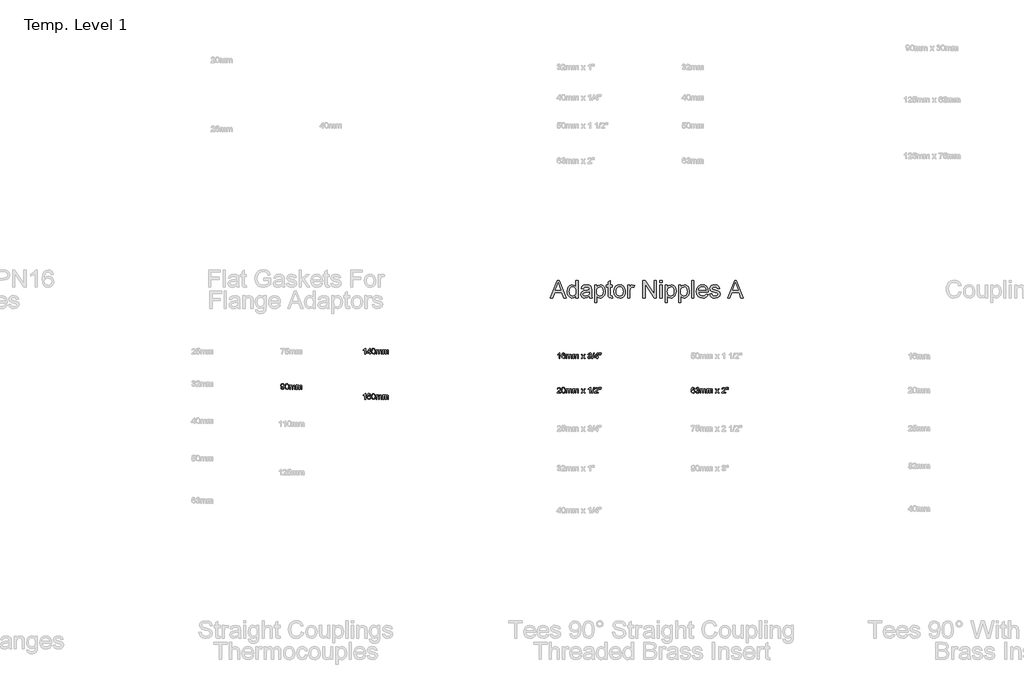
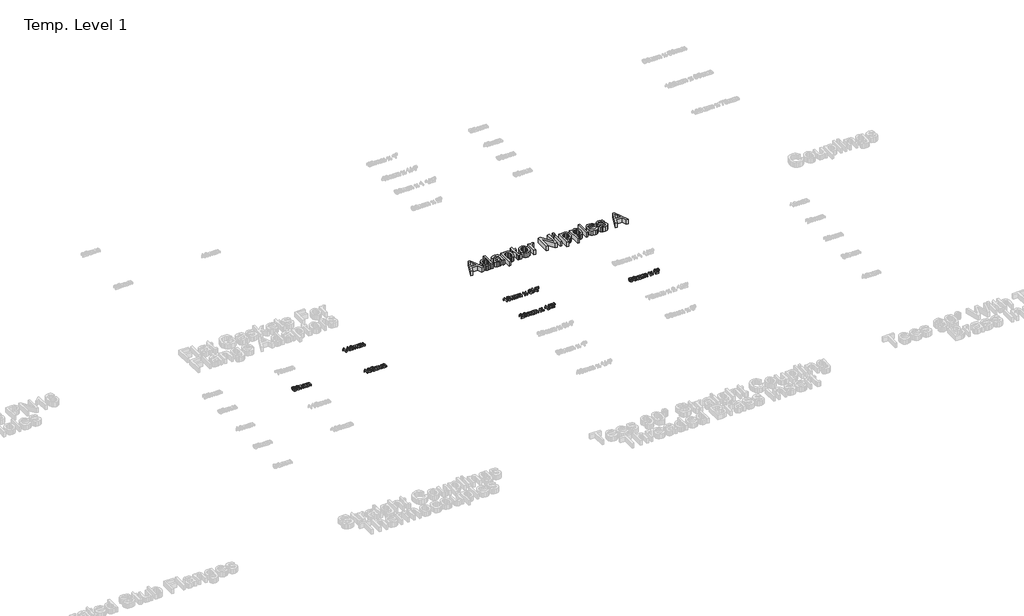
# One storey, part 11 of 62: 7 proxies.
"""IFC4 building model written with IfcOpenShell, lengths in millimetres."""

from ifc_helpers import new_model, si_unit, origin, origin_with_axes, place, context, project, spatial, polyline, outline, extrude, element, save

model = new_model("IFC4")

# Units and contexts
model_context = context("Model", 3, world=origin())
ifc_project = project(units=[si_unit("LENGTHUNIT", "METRE", prefix="MILLI")], contexts=[model_context])

# Site, building, storey
site = spatial("IfcSite", under=ifc_project)
building = spatial("IfcBuilding", under=site)
storey = spatial("IfcBuildingStorey", under=building, Name="Temp. Level 1", Elevation=0.0)

# Proxies
placement = place(None, origin())
element("IfcBuildingElementProxy", 1, Name="150mm Arial", ObjectType="150mm Arial", at=placement, inside=storey, context=model_context, shape_type="SweptSolid", body=[
    extrude(outline(polyline([(14593.1488865, -7070.198517), (14652.1032135, -6922.5062093), (14667.8243673, -6922.5062093), (14726.7786942, -7070.198517), (14707.2714827, -7070.198517), (14690.360425, -7024.0446709), (14629.5310981, -7024.0446709), (14612.6560981, -7070.198517), (14593.1488865, -7070.198517)]), holes=[polyline([(14636.3099442, -7005.5831324), (14683.6176365, -7005.5831324), (14670.3123481, -6969.2730362), (14659.9637904, -6940.9677478), (14650.7690788, -6966.0999593), (14636.3099442, -7005.5831324)])]), origin_with_axes(), (0.0, 0.0, 1.0), 50.0),
    extrude(outline(polyline([(14811.1176365, -7070.198517), (14811.1176365, -7052.7826516), (14798.9030933, -7067.5753199), (14782.0190788, -7072.5062093), (14770.0839827, -7070.7213536), (14759.1585019, -7065.3667862), (14749.9097038, -7056.816606), (14743.0046558, -7045.4449112), (14738.704776, -7031.7114377), (14737.2714827, -7016.0759209), (14742.5539346, -6986.6889016), (14749.1524923, -6975.0332526), (14758.3832615, -6966.4605362), (14769.5476245, -6961.1870987), (14781.9469635, -6959.4292862), (14798.9661942, -6964.4593343), (14811.1176365, -6977.5302478), (14811.1176365, -6922.5062093), (14829.579175, -6922.5062093), (14829.579175, -7070.198517), (14811.1176365, -7070.198517)]), holes=[polyline([(14755.7330212, -7016.0038055), (14757.8153529, -7032.7030242), (14764.0623481, -7044.5795266), (14773.1398721, -7051.6783848), (14783.7137904, -7054.0446709), (14794.2832014, -7051.7865579), (14803.1308577, -7045.0122189), (14809.1209418, -7033.5954521), (14811.1176365, -7017.4100555), (14809.0848841, -6999.714743), (14802.9866269, -6987.4461132), (14793.9136101, -6980.2796468), (14782.9565788, -6977.8908247), (14772.2744875, -6980.1849954), (14763.5214827, -6987.0675074), (14757.6801365, -6998.8899233), (14755.7330212, -7016.0038055)])]), origin_with_axes(), (0.0, 0.0, 1.0), 50.0),
    extrude(outline(polyline([(14926.5022519, -7056.3523632), (14908.5996077, -7068.8643824), (14888.8219635, -7072.5062093), (14873.3937784, -7070.3157045), (14862.0130692, -7063.7441901), (14854.9953409, -7053.7652237), (14852.6560981, -7041.3523632), (14856.1897519, -7026.7489978), (14865.4746077, -7016.1480362), (14878.4012904, -7010.0903439), (14894.3748481, -7007.3139016), (14926.3940788, -7000.9677478), (14926.5022519, -6996.8571709), (14925.2312183, -6988.6179882), (14921.4181173, -6983.2273632), (14912.8904731, -6979.2249593), (14901.0094635, -6977.8908247), (14882.3315788, -6981.4425074), (14873.4253288, -6994.0446709), (14854.9637904, -6991.7369786), (14862.9505692, -6973.7081324), (14879.0323, -6963.1432286), (14903.3892712, -6959.4292862), (14925.7630692, -6962.7105362), (14938.4012904, -6970.9497189), (14944.0623481, -6983.479767), (14944.9637904, -6999.6336132), (14944.9637904, -7022.6023632), (14945.9012904, -7054.6756805), (14949.579175, -7070.198517), (14931.1176365, -7070.198517), (14926.5022519, -7056.3523632)]), holes=[polyline([(14926.5022519, -7019.4292862), (14896.7185981, -7025.0903439), (14880.8351846, -7028.0831324), (14873.641675, -7032.9509209), (14871.1176365, -7040.0542862), (14876.6164346, -7050.042267), (14892.7522519, -7054.0446709), (14911.4301365, -7049.6276036), (14923.4734058, -7038.9364978), (14926.3940788, -7024.6576516), (14926.5022519, -7019.4292862)])]), origin_with_axes(), (0.0, 0.0, 1.0), 50.0),
    extrude(outline(polyline([(14970.3484058, -7111.7369786), (14970.3484058, -6961.7369786), (14988.8099442, -6961.7369786), (14988.8099442, -6979.8379401), (15001.5743673, -6964.5314497), (15018.8099442, -6959.4292862), (15031.2949202, -6961.214142), (15042.2113865, -6966.5687093), (15051.0996077, -6975.1684689), (15057.4998481, -6986.6889016), (15062.6560981, -7015.1384209), (15061.2002688, -7030.9271829), (15056.8327808, -7045.0482766), (15049.6933577, -7056.7850555), (15039.9217231, -7065.4208728), (15028.5410139, -7070.7348752), (15016.5743673, -7072.5062093), (15000.5106654, -7067.7646228), (14988.8099442, -7055.7754401), (14988.8099442, -7111.7369786), (14970.3484058, -7111.7369786)]), holes=[polyline([(14988.8099442, -7016.8331324), (14990.8066389, -7033.3836132), (14996.7967231, -7044.9581324), (15005.6353649, -7051.7730362), (15016.1777327, -7054.0446709), (15026.8913745, -7051.6919064), (15035.9553769, -7044.6336132), (15042.1347639, -7032.6354161), (15044.1945596, -7015.4629401), (15042.1843433, -6999.0026036), (15036.1536942, -6987.2658247), (15027.328574, -6980.2345747), (15016.9349442, -6977.8908247), (15006.5007495, -6980.3833127), (14997.3375885, -6987.8607766), (14990.9418553, -7000.0888415), (14988.8099442, -7016.8331324)])]), origin_with_axes(), (0.0, 0.0, 1.0), 50.0),
    extrude(outline(polyline([(15122.6560981, -7054.8018824), (15124.9637904, -7070.7393824), (15111.1536942, -7072.5062093), (15095.6849442, -7069.4413055), (15087.9685981, -7061.4004401), (15085.7330212, -7040.4509209), (15085.7330212, -6980.198517), (15071.8868673, -6980.198517), (15071.8868673, -6961.7369786), (15085.7330212, -6961.7369786), (15085.7330212, -6935.3788055), (15104.1945596, -6924.5254401), (15104.1945596, -6961.7369786), (15122.6560981, -6961.7369786), (15122.6560981, -6980.198517), (15104.1945596, -6980.198517), (15104.1945596, -7039.9100555), (15105.1681173, -7049.4292862), (15108.3231654, -7052.8006805), (15114.6152327, -7054.0446709), (15122.6560981, -7054.8018824)])), origin_with_axes(), (0.0, 0.0, 1.0), 50.0),
    extrude(outline(polyline([(15136.5022519, -7015.9677478), (15140.4956413, -6989.8169064), (15152.4758096, -6971.4364978), (15167.2774923, -6962.4310891), (15184.9998481, -6959.4292862), (15204.3943793, -6963.0846348), (15219.8856654, -6974.0506805), (15230.040413, -6991.4620387), (15233.4253288, -7014.4533247), (15231.9289346, -7033.1041661), (15227.4397519, -7047.3018824), (15220.0884899, -7057.9343944), (15210.0058577, -7065.8896228), (15198.0301966, -7070.8520627), (15184.9998481, -7072.5062093), (15165.3709418, -7068.8643824), (15149.8976846, -7057.9389016), (15139.8511101, -7040.1624593), (15136.5022519, -7015.9677478)]), holes=[polyline([(15154.9637904, -7015.9316901), (15157.1002087, -7032.6399233), (15163.5094635, -7044.5434689), (15173.1548962, -7051.6693704), (15184.9998481, -7054.0446709), (15196.7907135, -7051.6558487), (15206.4181173, -7044.4893824), (15212.8273721, -7032.4280843), (15214.9637904, -7015.354767), (15212.8138505, -6999.1333127), (15206.3640308, -6987.3920266), (15196.7231053, -6980.2661252), (15184.9998481, -6977.8908247), (15173.1548962, -6980.2571108), (15163.5094635, -6987.3559689), (15157.1002087, -6999.2324713), (15154.9637904, -7015.9316901)])]), origin_with_axes(), (0.0, 0.0, 1.0), 50.0),
    extrude(outline(polyline([(15254.1945596, -7070.198517), (15254.1945596, -6961.7369786), (15270.3484058, -6961.7369786), (15270.3484058, -6977.7826516), (15281.8147519, -6962.9989978), (15293.3532135, -6959.4292862), (15311.8868673, -6965.1264016), (15305.7210019, -6981.6768824), (15292.7402327, -6977.8908247), (15282.3015308, -6981.5326516), (15275.6488865, -6991.6288055), (15272.6560981, -7013.1913055), (15272.6560981, -7070.198517), (15254.1945596, -7070.198517)])), origin_with_axes(), (0.0, 0.0, 1.0), 50.0),
    extrude(outline(polyline([(15383.4253288, -7070.198517), (15383.4253288, -6922.5062093), (15403.1849442, -6922.5062093), (15480.3484058, -7039.5134209), (15480.3484058, -6922.5062093), (15498.8099442, -6922.5062093), (15498.8099442, -7070.198517), (15479.0503288, -7070.198517), (15401.8868673, -6953.1552478), (15401.8868673, -7070.198517), (15383.4253288, -7070.198517)])), origin_with_axes(), (0.0, 0.0, 1.0), 50.0),
    extrude(outline(polyline([(15528.8099442, -7070.198517), (15528.8099442, -6961.7369786), (15547.2714827, -6961.7369786), (15547.2714827, -7070.198517), (15528.8099442, -7070.198517)])), origin_with_axes(), (0.0, 0.0, 1.0), 50.0),
    extrude(outline(polyline([(15528.8099442, -6940.9677478), (15528.8099442, -6922.5062093), (15547.2714827, -6922.5062093), (15547.2714827, -6940.9677478), (15528.8099442, -6940.9677478)])), origin_with_axes(), (0.0, 0.0, 1.0), 50.0),
    extrude(outline(polyline([(15574.9637904, -7111.7369786), (15574.9637904, -6961.7369786), (15593.4253288, -6961.7369786), (15593.4253288, -6979.8379401), (15606.1897519, -6964.5314497), (15623.4253288, -6959.4292862), (15635.9103048, -6961.214142), (15646.8267712, -6966.5687093), (15655.7149923, -6975.1684689), (15662.1152327, -6986.6889016), (15667.2714827, -7015.1384209), (15665.8156534, -7030.9271829), (15661.4481654, -7045.0482766), (15654.3087423, -7056.7850555), (15644.5371077, -7065.4208728), (15633.1563986, -7070.7348752), (15621.1897519, -7072.5062093), (15605.12605, -7067.7646228), (15593.4253288, -7055.7754401), (15593.4253288, -7111.7369786), (15574.9637904, -7111.7369786)]), holes=[polyline([(15593.4253288, -7016.8331324), (15595.4220236, -7033.3836132), (15601.4121077, -7044.9581324), (15610.2507495, -7051.7730362), (15620.7931173, -7054.0446709), (15631.5067591, -7051.6919064), (15640.5707615, -7044.6336132), (15646.7501486, -7032.6354161), (15648.8099442, -7015.4629401), (15646.7997279, -6999.0026036), (15640.7690788, -6987.2658247), (15631.9439587, -6980.2345747), (15621.5503288, -6977.8908247), (15611.1161341, -6980.3833127), (15601.9529731, -6987.8607766), (15595.5572399, -7000.0888415), (15593.4253288, -7016.8331324)])]), origin_with_axes(), (0.0, 0.0, 1.0), 50.0),
    extrude(outline(polyline([(15688.0407135, -7111.7369786), (15688.0407135, -6961.7369786), (15706.5022519, -6961.7369786), (15706.5022519, -6979.8379401), (15719.266675, -6964.5314497), (15736.5022519, -6959.4292862), (15748.9872279, -6961.214142), (15759.9036942, -6966.5687093), (15768.7919154, -6975.1684689), (15775.1921558, -6986.6889016), (15780.3484058, -7015.1384209), (15778.8925764, -7030.9271829), (15774.5250885, -7045.0482766), (15767.3856654, -7056.7850555), (15757.6140308, -7065.4208728), (15746.2333216, -7070.7348752), (15734.266675, -7072.5062093), (15718.2029731, -7067.7646228), (15706.5022519, -7055.7754401), (15706.5022519, -7111.7369786), (15688.0407135, -7111.7369786)]), holes=[polyline([(15706.5022519, -7016.8331324), (15708.4989466, -7033.3836132), (15714.4890308, -7044.9581324), (15723.3276726, -7051.7730362), (15733.8700404, -7054.0446709), (15744.5836822, -7051.6919064), (15753.6476846, -7044.6336132), (15759.8270716, -7032.6354161), (15761.8868673, -7015.4629401), (15759.876651, -6999.0026036), (15753.8460019, -6987.2658247), (15745.0208817, -6980.2345747), (15734.6272519, -6977.8908247), (15724.1930572, -6980.3833127), (15715.0298962, -6987.8607766), (15708.634163, -7000.0888415), (15706.5022519, -7016.8331324)])]), origin_with_axes(), (0.0, 0.0, 1.0), 50.0),
    extrude(outline(polyline([(15801.1176365, -7070.198517), (15801.1176365, -6922.5062093), (15819.579175, -6922.5062093), (15819.579175, -7070.198517), (15801.1176365, -7070.198517)])), origin_with_axes(), (0.0, 0.0, 1.0), 50.0),
    extrude(outline(polyline([(15923.2089827, -7037.8908247), (15941.3099442, -7040.198517), (15934.7880091, -7053.8373391), (15924.3808577, -7064.0326516), (15910.3228649, -7070.3878199), (15892.8484058, -7072.5062093), (15871.1867471, -7068.8508608), (15854.5190788, -7057.8848151), (15843.891074, -7040.3202117), (15840.3484058, -7016.8691901), (15843.9271317, -6992.6294064), (15854.6633096, -6974.5014016), (15871.1056173, -6963.1973151), (15891.8027327, -6959.4292862), (15911.8553168, -6963.1883007), (15927.8784538, -6974.4653439), (15938.3847639, -6992.5572911), (15941.8868673, -7016.761017), (15941.7786942, -7021.7369786), (15858.8099442, -7021.7369786), (15862.0055572, -7035.5560891), (15869.4289346, -7045.7153439), (15880.1425764, -7051.9623391), (15893.2089827, -7054.0446709), (15911.3099442, -7050.1864978), (15923.2089827, -7037.8908247)]), holes=[polyline([(15858.8099442, -7003.2754401), (15923.4253288, -7003.2754401), (15920.9283337, -6993.5218343), (15916.0335019, -6986.5446709), (15905.2702808, -6980.0542862), (15891.7306173, -6977.8908247), (15879.2862063, -6979.6170867), (15868.9962423, -6984.7958728), (15861.8432976, -6992.8682887), (15858.8099442, -7003.2754401)])]), origin_with_axes(), (0.0, 0.0, 1.0), 50.0),
    extrude(outline(polyline([(15953.4253288, -7037.8908247), (15971.8868673, -7035.5831324), (15974.798526, -7043.479767), (15980.4325404, -7049.2850555), (16000.0118673, -7054.0446709), (16018.8339827, -7049.6816901), (16024.9637904, -7039.4413055), (16018.797925, -7031.1480362), (15999.7955212, -7025.8836132), (15971.9950404, -7016.8511612), (15959.8616269, -7006.3042862), (15955.7330212, -6991.4124593), (15959.0503288, -6977.6564497), (15968.1008096, -6967.1456324), (15979.8375885, -6961.682892), (15995.7210019, -6959.4292862), (16018.1849442, -6963.0530843), (16032.4637904, -6972.8607766), (16038.8099442, -6989.4292862), (16020.3484058, -6991.7369786), (16013.4073, -6981.5506805), (15997.1633096, -6977.8908247), (15979.4950404, -6981.3884209), (15974.1945596, -6989.5374593), (15976.3940788, -6994.9100555), (15983.2810981, -6998.9845747), (15999.1825404, -7002.9148632), (16026.2798962, -7011.604767), (16038.8640308, -7021.448517), (16043.4253288, -7037.4941901), (16038.0707615, -7055.1624593), (16022.6200404, -7067.9809689), (15999.7594635, -7072.5062093), (15981.1446798, -7070.3247189), (15967.5599442, -7063.7802478), (15958.4914346, -7052.9449112), (15953.4253288, -7037.8908247)])), origin_with_axes(), (0.0, 0.0, 1.0), 50.0),
    extrude(outline(polyline([(16106.9950404, -7070.198517), (16165.9493673, -6922.5062093), (16181.6705212, -6922.5062093), (16240.6248481, -7070.198517), (16221.1176365, -7070.198517), (16204.2065788, -7024.0446709), (16143.3772519, -7024.0446709), (16126.5022519, -7070.198517), (16106.9950404, -7070.198517)]), holes=[polyline([(16150.1560981, -7005.5831324), (16197.4637904, -7005.5831324), (16184.1585019, -6969.2730362), (16173.8099442, -6940.9677478), (16164.6152327, -6966.0999593), (16150.1560981, -7005.5831324)])]), origin_with_axes(), (0.0, 0.0, 1.0), 50.0),
])
element("IfcBuildingElementProxy", 2, Name="50mm Arial", ObjectType="50mm Arial", at=placement, inside=storey, context=model_context, shape_type="SweptSolid", body=[
    extrude(outline(polyline([(12291.0938247, -7840.3908247), (12297.2476708, -7839.6215939), (12300.0120939, -7845.4929882), (12305.2524785, -7847.3139016), (12310.2344497, -7846.1420266), (12313.6118535, -7843.011017), (12315.6250747, -7837.6624593), (12316.5144977, -7830.5230362), (12311.5565651, -7833.9845747), (12304.807767, -7835.7754401), (12294.5253151, -7831.4004401), (12290.3245939, -7819.8739978), (12294.729642, -7807.9749593), (12305.7693054, -7803.4677478), (12314.5373343, -7806.0398632), (12320.5709881, -7813.3715939), (12322.6322862, -7827.1456324), (12320.5769977, -7842.0915459), (12314.4652189, -7850.5590939), (12304.964017, -7853.4677478), (12295.5048824, -7850.0362574), (12291.0938247, -7840.3908247)]), holes=[polyline([(12316.4784401, -7819.729767), (12313.8221901, -7812.3499593), (12306.7669016, -7809.6215939), (12299.3630554, -7812.5602959), (12296.4784401, -7820.1744786), (12299.2068054, -7826.995392), (12306.5986324, -7829.6215939), (12313.6959881, -7826.995392), (12316.4784401, -7819.729767)])]), origin_with_axes(), (0.0, 0.0, 1.0), 15.0),
    extrude(outline(polyline([(12328.0169016, -7828.479767), (12329.8257958, -7814.3151036), (12335.198392, -7806.1480362), (12344.1707477, -7803.4677478), (12351.3582477, -7805.0542862), (12356.3221901, -7809.6276036), (12359.2068054, -7816.9112574), (12360.3245939, -7828.479767), (12358.5337285, -7842.5843343), (12353.1791612, -7850.7694305), (12344.1707477, -7853.4677478), (12332.9207477, -7848.7802478), (12329.2428631, -7840.4539257), (12328.0169016, -7828.479767)]), holes=[polyline([(12334.1707477, -7828.4677478), (12337.0553631, -7843.7501997), (12344.1707477, -7847.3139016), (12351.2861324, -7843.7381805), (12354.1707477, -7828.4677478), (12351.3822862, -7813.3595747), (12344.0986324, -7809.6215939), (12337.151517, -7812.9148632), (12334.1707477, -7828.4677478)])]), origin_with_axes(), (0.0, 0.0, 1.0), 15.0),
    extrude(outline(polyline([(12367.2476708, -7852.698517), (12367.2476708, -7816.5446709), (12373.401517, -7816.5446709), (12373.401517, -7822.4941901), (12377.6322862, -7817.620392), (12383.6539208, -7815.7754401), (12389.8197862, -7817.6564497), (12393.2092093, -7822.9268824), (12398.010892, -7817.5633007), (12404.0745939, -7815.7754401), (12412.1214689, -7818.7501997), (12414.9399785, -7827.9148632), (12414.9399785, -7852.698517), (12408.7861324, -7852.698517), (12408.7861324, -7830.5590939), (12408.2152189, -7825.4208728), (12406.1479112, -7822.8908247), (12402.6322862, -7821.9292862), (12396.5806035, -7824.3932286), (12394.1707477, -7832.2898632), (12394.1707477, -7852.698517), (12388.0169016, -7852.698517), (12388.0169016, -7829.8739978), (12386.5926227, -7823.9124593), (12381.9231516, -7821.9292862), (12377.3678631, -7823.2514016), (12374.339017, -7827.1215939), (12373.401517, -7834.4653439), (12373.401517, -7852.698517), (12367.2476708, -7852.698517)])), origin_with_axes(), (0.0, 0.0, 1.0), 15.0),
    extrude(outline(polyline([(12424.1707477, -7852.698517), (12424.1707477, -7816.5446709), (12430.3245939, -7816.5446709), (12430.3245939, -7822.4941901), (12434.5553631, -7817.620392), (12440.5769977, -7815.7754401), (12446.7428631, -7817.6564497), (12450.1322862, -7822.9268824), (12454.9339689, -7817.5633007), (12460.9976708, -7815.7754401), (12469.0445458, -7818.7501997), (12471.8630554, -7827.9148632), (12471.8630554, -7852.698517), (12465.7092093, -7852.698517), (12465.7092093, -7830.5590939), (12465.1382958, -7825.4208728), (12463.0709881, -7822.8908247), (12459.5553631, -7821.9292862), (12453.5036804, -7824.3932286), (12451.0938247, -7832.2898632), (12451.0938247, -7852.698517), (12444.9399785, -7852.698517), (12444.9399785, -7829.8739978), (12443.5156997, -7823.9124593), (12438.8462285, -7821.9292862), (12434.2909401, -7823.2514016), (12431.2620939, -7827.1215939), (12430.3245939, -7834.4653439), (12430.3245939, -7852.698517), (12424.1707477, -7852.698517)])), origin_with_axes(), (0.0, 0.0, 1.0), 15.0),
])
element("IfcBuildingElementProxy", 3, Name="50mm Arial", ObjectType="50mm Arial", at=placement, inside=storey, context=model_context, shape_type="SweptSolid", body=[
    extrude(outline(polyline([(13014.5553631, -7551.5627719), (13008.401517, -7551.5627719), (13008.401517, -7513.1973873), (13002.5721901, -7517.3500315), (12996.0938247, -7520.4570027), (12996.0938247, -7514.639695), (13005.1142574, -7508.8824835), (13010.589017, -7502.3320027), (13014.5553631, -7502.3320027), (13014.5553631, -7551.5627719)])), origin_with_axes(), (0.0, 0.0, 1.0), 15.0),
    extrude(outline(polyline([(13049.1707477, -7551.5627719), (13049.1707477, -7540.0243104), (13026.8630554, -7540.0243104), (13026.8630554, -7533.8704642), (13050.7092093, -7503.1012335), (13055.3245939, -7503.1012335), (13055.3245939, -7533.8704642), (13061.4784401, -7533.8704642), (13061.4784401, -7540.0243104), (13055.3245939, -7540.0243104), (13055.3245939, -7551.5627719), (13049.1707477, -7551.5627719)]), holes=[polyline([(13049.1707477, -7533.8704642), (13049.1707477, -7514.8560411), (13034.4351708, -7533.8704642), (13049.1707477, -7533.8704642)])]), origin_with_axes(), (0.0, 0.0, 1.0), 15.0),
    extrude(outline(polyline([(13066.8630554, -7527.3440219), (13068.6719497, -7513.1793585), (13074.0445458, -7505.0122911), (13083.0169016, -7502.3320027), (13090.2044016, -7503.9185411), (13095.1683439, -7508.4918585), (13098.0529593, -7515.7755123), (13099.1707477, -7527.3440219), (13097.3798824, -7541.4485892), (13092.0253151, -7549.6336854), (13083.0169016, -7552.3320027), (13071.7669016, -7547.6445027), (13068.089017, -7539.3181806), (13066.8630554, -7527.3440219)]), holes=[polyline([(13073.0169016, -7527.3320027), (13075.901517, -7542.6144546), (13083.0169016, -7546.1781565), (13090.1322862, -7542.6024354), (13093.0169016, -7527.3320027), (13090.2284401, -7512.2238296), (13082.9447862, -7508.4858488), (13075.9976708, -7511.7791181), (13073.0169016, -7527.3320027)])]), origin_with_axes(), (0.0, 0.0, 1.0), 15.0),
    extrude(outline(polyline([(13106.0938247, -7551.5627719), (13106.0938247, -7515.4089258), (13112.2476708, -7515.4089258), (13112.2476708, -7521.358445), (13116.4784401, -7516.4846469), (13122.5000747, -7514.639695), (13128.6659401, -7516.5207046), (13132.0553631, -7521.7911373), (13136.8570458, -7516.4275556), (13142.9207477, -7514.639695), (13150.9676227, -7517.6144546), (13153.7861324, -7526.7791181), (13153.7861324, -7551.5627719), (13147.6322862, -7551.5627719), (13147.6322862, -7529.4233488), (13147.0613727, -7524.2851277), (13144.9940651, -7521.7550796), (13141.4784401, -7520.7935411), (13135.4267574, -7523.2574835), (13133.0169016, -7531.1541181), (13133.0169016, -7551.5627719), (13126.8630554, -7551.5627719), (13126.8630554, -7528.7382527), (13125.4387766, -7522.7767142), (13120.7693054, -7520.7935411), (13116.214017, -7522.1156565), (13113.1851708, -7525.9858488), (13112.2476708, -7533.3295988), (13112.2476708, -7551.5627719), (13106.0938247, -7551.5627719)])), origin_with_axes(), (0.0, 0.0, 1.0), 15.0),
    extrude(outline(polyline([(13163.0169016, -7551.5627719), (13163.0169016, -7515.4089258), (13169.1707477, -7515.4089258), (13169.1707477, -7521.358445), (13173.401517, -7516.4846469), (13179.4231516, -7514.639695), (13185.589017, -7516.5207046), (13188.9784401, -7521.7911373), (13193.7801227, -7516.4275556), (13199.8438247, -7514.639695), (13207.8906997, -7517.6144546), (13210.7092093, -7526.7791181), (13210.7092093, -7551.5627719), (13204.5553631, -7551.5627719), (13204.5553631, -7529.4233488), (13203.9844497, -7524.2851277), (13201.917142, -7521.7550796), (13198.401517, -7520.7935411), (13192.3498343, -7523.2574835), (13189.9399785, -7531.1541181), (13189.9399785, -7551.5627719), (13183.7861324, -7551.5627719), (13183.7861324, -7528.7382527), (13182.3618535, -7522.7767142), (13177.6923824, -7520.7935411), (13173.1370939, -7522.1156565), (13170.1082477, -7525.9858488), (13169.1707477, -7533.3295988), (13169.1707477, -7551.5627719), (13163.0169016, -7551.5627719)])), origin_with_axes(), (0.0, 0.0, 1.0), 15.0),
])
element("IfcBuildingElementProxy", 4, Name="50mm Arial", ObjectType="50mm Arial", at=placement, inside=storey, context=model_context, shape_type="SweptSolid", body=[
    extrude(outline(polyline([(13014.5553631, -7937.698517), (13008.401517, -7937.698517), (13008.401517, -7899.3331324), (13002.5721901, -7903.4857766), (12996.0938247, -7906.5927478), (12996.0938247, -7900.7754401), (13005.1142574, -7895.0182286), (13010.589017, -7888.4677478), (13014.5553631, -7888.4677478), (13014.5553631, -7937.698517)])), origin_with_axes(), (0.0, 0.0, 1.0), 15.0),
    extrude(outline(polyline([(13060.7092093, -7901.5446709), (13054.5553631, -7902.3139016), (13052.2236324, -7897.1816901), (13046.057767, -7894.6215939), (13040.5048824, -7896.1119786), (13036.3041612, -7901.7069305), (13034.5553631, -7912.6744786), (13039.9820458, -7907.7646228), (13046.7068054, -7906.1600555), (13057.1635362, -7910.5470747), (13061.4784401, -7921.8812093), (13059.4471901, -7930.3727959), (13053.8582477, -7936.3824112), (13045.7933439, -7938.4677478), (13033.2512766, -7932.9389016), (13029.6139569, -7925.6191901), (13028.401517, -7914.7177478), (13029.7476708, -7902.4611372), (13033.7861324, -7894.0807286), (13039.2999545, -7889.870993), (13046.4423824, -7888.4677478), (13056.1659401, -7891.9413055), (13060.7092093, -7901.5446709)]), holes=[polyline([(13034.5553631, -7921.7850555), (13035.979642, -7927.1155843), (13039.7656997, -7930.9857766), (13045.3125747, -7932.3139016), (13052.5661804, -7929.5614978), (13055.3245939, -7922.0855362), (13052.6022381, -7914.9280843), (13045.0601708, -7912.3139016), (13037.6142574, -7914.9280843), (13034.5553631, -7921.7850555)])]), origin_with_axes(), (0.0, 0.0, 1.0), 15.0),
    extrude(outline(polyline([(13066.8630554, -7913.479767), (13068.6719497, -7899.3151036), (13074.0445458, -7891.1480362), (13083.0169016, -7888.4677478), (13090.2044016, -7890.0542862), (13095.1683439, -7894.6276036), (13098.0529593, -7901.9112574), (13099.1707477, -7913.479767), (13097.3798824, -7927.5843343), (13092.0253151, -7935.7694305), (13083.0169016, -7938.4677478), (13071.7669016, -7933.7802478), (13068.089017, -7925.4539257), (13066.8630554, -7913.479767)]), holes=[polyline([(13073.0169016, -7913.4677478), (13075.901517, -7928.7501997), (13083.0169016, -7932.3139016), (13090.1322862, -7928.7381805), (13093.0169016, -7913.4677478), (13090.2284401, -7898.3595747), (13082.9447862, -7894.6215939), (13075.9976708, -7897.9148632), (13073.0169016, -7913.4677478)])]), origin_with_axes(), (0.0, 0.0, 1.0), 15.0),
    extrude(outline(polyline([(13106.0938247, -7937.698517), (13106.0938247, -7901.5446709), (13112.2476708, -7901.5446709), (13112.2476708, -7907.4941901), (13116.4784401, -7902.620392), (13122.5000747, -7900.7754401), (13128.6659401, -7902.6564497), (13132.0553631, -7907.9268824), (13136.8570458, -7902.5633007), (13142.9207477, -7900.7754401), (13150.9676227, -7903.7501997), (13153.7861324, -7912.9148632), (13153.7861324, -7937.698517), (13147.6322862, -7937.698517), (13147.6322862, -7915.5590939), (13147.0613727, -7910.4208728), (13144.9940651, -7907.8908247), (13141.4784401, -7906.9292862), (13135.4267574, -7909.3932286), (13133.0169016, -7917.2898632), (13133.0169016, -7937.698517), (13126.8630554, -7937.698517), (13126.8630554, -7914.8739978), (13125.4387766, -7908.9124593), (13120.7693054, -7906.9292862), (13116.214017, -7908.2514016), (13113.1851708, -7912.1215939), (13112.2476708, -7919.4653439), (13112.2476708, -7937.698517), (13106.0938247, -7937.698517)])), origin_with_axes(), (0.0, 0.0, 1.0), 15.0),
    extrude(outline(polyline([(13163.0169016, -7937.698517), (13163.0169016, -7901.5446709), (13169.1707477, -7901.5446709), (13169.1707477, -7907.4941901), (13173.401517, -7902.620392), (13179.4231516, -7900.7754401), (13185.589017, -7902.6564497), (13188.9784401, -7907.9268824), (13193.7801227, -7902.5633007), (13199.8438247, -7900.7754401), (13207.8906997, -7903.7501997), (13210.7092093, -7912.9148632), (13210.7092093, -7937.698517), (13204.5553631, -7937.698517), (13204.5553631, -7915.5590939), (13203.9844497, -7910.4208728), (13201.917142, -7907.8908247), (13198.401517, -7906.9292862), (13192.3498343, -7909.3932286), (13189.9399785, -7917.2898632), (13189.9399785, -7937.698517), (13183.7861324, -7937.698517), (13183.7861324, -7914.8739978), (13182.3618535, -7908.9124593), (13177.6923824, -7906.9292862), (13173.1370939, -7908.2514016), (13170.1082477, -7912.1215939), (13169.1707477, -7919.4653439), (13169.1707477, -7937.698517), (13163.0169016, -7937.698517)])), origin_with_axes(), (0.0, 0.0, 1.0), 15.0),
])
element("IfcBuildingElementProxy", 5, Name="50mm Arial", ObjectType="50mm Arial", at=placement, inside=storey, context=model_context, shape_type="SweptSolid", body=[
    extrude(outline(polyline([(14674.252074, -7590.198517), (14668.0982278, -7590.198517), (14668.0982278, -7551.8331324), (14662.2689009, -7555.9857766), (14655.7905355, -7559.0927478), (14655.7905355, -7553.2754401), (14664.8109682, -7547.5182286), (14670.2857278, -7540.9677478), (14674.252074, -7540.9677478), (14674.252074, -7590.198517)])), origin_with_axes(), (0.0, 0.0, 1.0), 15.0),
    extrude(outline(polyline([(14720.4059201, -7554.0446709), (14714.252074, -7554.8139016), (14711.9203432, -7549.6816901), (14705.7544778, -7547.1215939), (14700.2015932, -7548.6119786), (14696.0008721, -7554.2069305), (14694.252074, -7565.1744786), (14699.6787567, -7560.2646228), (14706.4035163, -7558.6600555), (14716.8602471, -7563.0470747), (14721.1751509, -7574.3812093), (14719.1439009, -7582.8727959), (14713.5549586, -7588.8824112), (14705.4900547, -7590.9677478), (14692.9479874, -7585.4389016), (14689.3106677, -7578.1191901), (14688.0982278, -7567.2177478), (14689.4443817, -7554.9611372), (14693.4828432, -7546.5807286), (14698.9966653, -7542.370993), (14706.1390932, -7540.9677478), (14715.8626509, -7544.4413055), (14720.4059201, -7554.0446709)]), holes=[polyline([(14694.252074, -7574.2850555), (14695.6763528, -7579.6155843), (14699.4624105, -7583.4857766), (14705.0092855, -7584.8139016), (14712.2628913, -7582.0614978), (14715.0213047, -7574.5855362), (14712.298949, -7567.4280843), (14704.7568817, -7564.8139016), (14697.3109682, -7567.4280843), (14694.252074, -7574.2850555)])]), origin_with_axes(), (0.0, 0.0, 1.0), 15.0),
    extrude(outline(polyline([(14728.0982278, -7590.198517), (14728.0982278, -7554.0446709), (14734.252074, -7554.0446709), (14734.252074, -7559.9941901), (14738.4828432, -7555.120392), (14744.5044778, -7553.2754401), (14750.6703432, -7555.1564497), (14754.0597663, -7560.4268824), (14758.861449, -7555.0633007), (14764.9251509, -7553.2754401), (14772.9720259, -7556.2501997), (14775.7905355, -7565.4148632), (14775.7905355, -7590.198517), (14769.6366894, -7590.198517), (14769.6366894, -7568.0590939), (14769.0657759, -7562.9208728), (14766.9984682, -7560.3908247), (14763.4828432, -7559.4292862), (14757.4311605, -7561.8932286), (14755.0213047, -7569.7898632), (14755.0213047, -7590.198517), (14748.8674586, -7590.198517), (14748.8674586, -7567.3739978), (14747.4431797, -7561.4124593), (14742.7737086, -7559.4292862), (14738.2184201, -7560.7514016), (14735.189574, -7564.6215939), (14734.252074, -7571.9653439), (14734.252074, -7590.198517), (14728.0982278, -7590.198517)])), origin_with_axes(), (0.0, 0.0, 1.0), 15.0),
    extrude(outline(polyline([(14785.0213047, -7590.198517), (14785.0213047, -7554.0446709), (14791.1751509, -7554.0446709), (14791.1751509, -7559.9941901), (14795.4059201, -7555.120392), (14801.4275547, -7553.2754401), (14807.5934201, -7555.1564497), (14810.9828432, -7560.4268824), (14815.7845259, -7555.0633007), (14821.8482278, -7553.2754401), (14829.8951028, -7556.2501997), (14832.7136124, -7565.4148632), (14832.7136124, -7590.198517), (14826.5597663, -7590.198517), (14826.5597663, -7568.0590939), (14825.9888528, -7562.9208728), (14823.9215451, -7560.3908247), (14820.4059201, -7559.4292862), (14814.3542374, -7561.8932286), (14811.9443817, -7569.7898632), (14811.9443817, -7590.198517), (14805.7905355, -7590.198517), (14805.7905355, -7567.3739978), (14804.3662567, -7561.4124593), (14799.6967855, -7559.4292862), (14795.1414971, -7560.7514016), (14792.1126509, -7564.6215939), (14791.1751509, -7571.9653439), (14791.1751509, -7590.198517), (14785.0213047, -7590.198517)])), origin_with_axes(), (0.0, 0.0, 1.0), 15.0),
    extrude(outline(polyline([(14857.3289971, -7590.198517), (14870.4780355, -7572.0254401), (14858.0982278, -7554.0446709), (14865.502074, -7554.0446709), (14871.4756317, -7562.698517), (14874.2640932, -7566.7850555), (14876.6799586, -7563.4437093), (14883.4828432, -7554.0446709), (14890.8866894, -7554.0446709), (14877.8818817, -7572.0254401), (14890.4059201, -7590.198517), (14883.002074, -7590.198517), (14875.4660163, -7579.2730362), (14874.0838047, -7577.2778439), (14864.7328432, -7590.198517), (14857.3289971, -7590.198517)])), origin_with_axes(), (0.0, 0.0, 1.0), 15.0),
    extrude(outline(polyline([(14913.4828432, -7577.1215939), (14919.6366894, -7576.3523632), (14923.0321221, -7582.8307286), (14929.3842855, -7584.8139016), (14936.8602471, -7582.0855362), (14939.6366894, -7575.3307286), (14936.8842855, -7568.9665459), (14929.8890932, -7566.448517), (14925.5741894, -7567.1215939), (14926.2592855, -7560.9677478), (14934.2280355, -7559.2730362), (14937.3289971, -7553.8403439), (14935.0814009, -7549.026642), (14929.2881317, -7547.1215939), (14923.4227471, -7549.0446709), (14920.4059201, -7554.8139016), (14914.252074, -7554.0446709), (14919.2881317, -7544.3932286), (14929.0717855, -7540.9677478), (14936.4936605, -7542.6564497), (14941.6859682, -7547.2718343), (14943.4828432, -7553.479767), (14941.7761124, -7559.1528439), (14936.7280355, -7563.2273632), (14943.4347663, -7567.4340939), (14945.7905355, -7575.4389016), (14941.0789971, -7586.448517), (14929.1679394, -7590.9677478), (14918.3746701, -7587.1095747), (14913.4828432, -7577.1215939)])), origin_with_axes(), (0.0, 0.0, 1.0), 15.0),
    extrude(outline(polyline([(14948.0982278, -7590.198517), (14961.9443817, -7540.9677478), (14967.4972663, -7540.9677478), (14953.6511124, -7590.198517), (14948.0982278, -7590.198517)])), origin_with_axes(), (0.0, 0.0, 1.0), 15.0),
    extrude(outline(polyline([(14990.4059201, -7590.198517), (14990.4059201, -7578.6600555), (14968.0982278, -7578.6600555), (14968.0982278, -7572.5062093), (14991.9443817, -7541.7369786), (14996.5597663, -7541.7369786), (14996.5597663, -7572.5062093), (15002.7136124, -7572.5062093), (15002.7136124, -7578.6600555), (14996.5597663, -7578.6600555), (14996.5597663, -7590.198517), (14990.4059201, -7590.198517)]), holes=[polyline([(14990.4059201, -7572.5062093), (14990.4059201, -7553.4917862), (14975.6703432, -7572.5062093), (14990.4059201, -7572.5062093)])]), origin_with_axes(), (0.0, 0.0, 1.0), 15.0),
    extrude(outline(polyline([(15021.8722663, -7558.6600555), (15020.4059201, -7549.1528439), (15020.4059201, -7540.9677478), (15026.5597663, -7540.9677478), (15026.5597663, -7549.1528439), (15025.1174586, -7558.6600555), (15021.8722663, -7558.6600555)])), origin_with_axes(), (0.0, 0.0, 1.0), 15.0),
    extrude(outline(polyline([(15009.6006317, -7558.6600555), (15008.0982278, -7549.1528439), (15008.0982278, -7540.9677478), (15014.252074, -7540.9677478), (15014.252074, -7549.1528439), (15012.9059201, -7558.6600555), (15009.6006317, -7558.6600555)])), origin_with_axes(), (0.0, 0.0, 1.0), 15.0),
])
element("IfcBuildingElementProxy", 6, Name="50mm Arial", ObjectType="50mm Arial", at=placement, inside=storey, context=model_context, shape_type="SweptSolid", body=[
    extrude(outline(polyline([(14682.7136124, -7879.0446709), (14682.7136124, -7885.198517), (14650.4059201, -7885.198517), (14651.0669778, -7880.9557286), (14654.8049586, -7874.4232766), (14662.5092855, -7867.2898632), (14673.1342855, -7857.0374593), (14675.7905355, -7850.0663055), (14673.2845259, -7844.4232766), (14666.7400547, -7842.1215939), (14659.9191413, -7844.3691901), (14657.3289971, -7850.5831324), (14651.1751509, -7849.8139016), (14655.892699, -7839.5134209), (14666.8722663, -7835.9677478), (14677.8878913, -7839.9100555), (14681.9443817, -7849.6937093), (14680.8506317, -7855.5290459), (14677.2148144, -7861.5626997), (14668.3987086, -7869.9941901), (14661.3193817, -7875.9136612), (14658.5429394, -7879.0446709), (14682.7136124, -7879.0446709)])), origin_with_axes(), (0.0, 0.0, 1.0), 15.0),
    extrude(outline(polyline([(14688.8674586, -7860.979767), (14690.6763528, -7846.8151036), (14696.048949, -7838.6480362), (14705.0213047, -7835.9677478), (14712.2088047, -7837.5542862), (14717.1727471, -7842.1276036), (14720.0573624, -7849.4112574), (14721.1751509, -7860.979767), (14719.3842855, -7875.0843343), (14714.0297182, -7883.2694305), (14705.0213047, -7885.9677478), (14693.7713047, -7881.2802478), (14690.0934201, -7872.9539257), (14688.8674586, -7860.979767)]), holes=[polyline([(14695.0213047, -7860.9677478), (14697.9059201, -7876.2501997), (14705.0213047, -7879.8139016), (14712.1366894, -7876.2381805), (14715.0213047, -7860.9677478), (14712.2328432, -7845.8595747), (14704.9491894, -7842.1215939), (14698.002074, -7845.4148632), (14695.0213047, -7860.9677478)])]), origin_with_axes(), (0.0, 0.0, 1.0), 15.0),
    extrude(outline(polyline([(14728.0982278, -7885.198517), (14728.0982278, -7849.0446709), (14734.252074, -7849.0446709), (14734.252074, -7854.9941901), (14738.4828432, -7850.120392), (14744.5044778, -7848.2754401), (14750.6703432, -7850.1564497), (14754.0597663, -7855.4268824), (14758.861449, -7850.0633007), (14764.9251509, -7848.2754401), (14772.9720259, -7851.2501997), (14775.7905355, -7860.4148632), (14775.7905355, -7885.198517), (14769.6366894, -7885.198517), (14769.6366894, -7863.0590939), (14769.0657759, -7857.9208728), (14766.9984682, -7855.3908247), (14763.4828432, -7854.4292862), (14757.4311605, -7856.8932286), (14755.0213047, -7864.7898632), (14755.0213047, -7885.198517), (14748.8674586, -7885.198517), (14748.8674586, -7862.3739978), (14747.4431797, -7856.4124593), (14742.7737086, -7854.4292862), (14738.2184201, -7855.7514016), (14735.189574, -7859.6215939), (14734.252074, -7866.9653439), (14734.252074, -7885.198517), (14728.0982278, -7885.198517)])), origin_with_axes(), (0.0, 0.0, 1.0), 15.0),
    extrude(outline(polyline([(14785.0213047, -7885.198517), (14785.0213047, -7849.0446709), (14791.1751509, -7849.0446709), (14791.1751509, -7854.9941901), (14795.4059201, -7850.120392), (14801.4275547, -7848.2754401), (14807.5934201, -7850.1564497), (14810.9828432, -7855.4268824), (14815.7845259, -7850.0633007), (14821.8482278, -7848.2754401), (14829.8951028, -7851.2501997), (14832.7136124, -7860.4148632), (14832.7136124, -7885.198517), (14826.5597663, -7885.198517), (14826.5597663, -7863.0590939), (14825.9888528, -7857.9208728), (14823.9215451, -7855.3908247), (14820.4059201, -7854.4292862), (14814.3542374, -7856.8932286), (14811.9443817, -7864.7898632), (14811.9443817, -7885.198517), (14805.7905355, -7885.198517), (14805.7905355, -7862.3739978), (14804.3662567, -7856.4124593), (14799.6967855, -7854.4292862), (14795.1414971, -7855.7514016), (14792.1126509, -7859.6215939), (14791.1751509, -7866.9653439), (14791.1751509, -7885.198517), (14785.0213047, -7885.198517)])), origin_with_axes(), (0.0, 0.0, 1.0), 15.0),
    extrude(outline(polyline([(14857.3289971, -7885.198517), (14870.4780355, -7867.0254401), (14858.0982278, -7849.0446709), (14865.502074, -7849.0446709), (14871.4756317, -7857.698517), (14874.2640932, -7861.7850555), (14876.6799586, -7858.4437093), (14883.4828432, -7849.0446709), (14890.8866894, -7849.0446709), (14877.8818817, -7867.0254401), (14890.4059201, -7885.198517), (14883.002074, -7885.198517), (14875.4660163, -7874.2730362), (14874.0838047, -7872.2778439), (14864.7328432, -7885.198517), (14857.3289971, -7885.198517)])), origin_with_axes(), (0.0, 0.0, 1.0), 15.0),
    extrude(outline(polyline([(14936.5597663, -7885.198517), (14930.4059201, -7885.198517), (14930.4059201, -7846.8331324), (14924.5765932, -7850.9857766), (14918.0982278, -7854.0927478), (14918.0982278, -7848.2754401), (14927.1186605, -7842.5182286), (14932.5934201, -7835.9677478), (14936.5597663, -7835.9677478), (14936.5597663, -7885.198517)])), origin_with_axes(), (0.0, 0.0, 1.0), 15.0),
    extrude(outline(polyline([(14948.0982278, -7885.198517), (14961.9443817, -7835.9677478), (14967.4972663, -7835.9677478), (14953.6511124, -7885.198517), (14948.0982278, -7885.198517)])), origin_with_axes(), (0.0, 0.0, 1.0), 15.0),
    extrude(outline(polyline([(15001.9443817, -7879.0446709), (15001.9443817, -7885.198517), (14969.6366894, -7885.198517), (14970.2977471, -7880.9557286), (14974.0357278, -7874.4232766), (14981.7400547, -7867.2898632), (14992.3650547, -7857.0374593), (14995.0213047, -7850.0663055), (14992.5152951, -7844.4232766), (14985.970824, -7842.1215939), (14979.1499105, -7844.3691901), (14976.5597663, -7850.5831324), (14970.4059201, -7849.8139016), (14975.1234682, -7839.5134209), (14986.1030355, -7835.9677478), (14997.1186605, -7839.9100555), (15001.1751509, -7849.6937093), (15000.0814009, -7855.5290459), (14996.4455836, -7861.5626997), (14987.6294778, -7869.9941901), (14980.5501509, -7875.9136612), (14977.7737086, -7879.0446709), (15001.9443817, -7879.0446709)])), origin_with_axes(), (0.0, 0.0, 1.0), 15.0),
    extrude(outline(polyline([(15021.8722663, -7853.6600555), (15020.4059201, -7844.1528439), (15020.4059201, -7835.9677478), (15026.5597663, -7835.9677478), (15026.5597663, -7844.1528439), (15025.1174586, -7853.6600555), (15021.8722663, -7853.6600555)])), origin_with_axes(), (0.0, 0.0, 1.0), 15.0),
    extrude(outline(polyline([(15009.6006317, -7853.6600555), (15008.0982278, -7844.1528439), (15008.0982278, -7835.9677478), (15014.252074, -7835.9677478), (15014.252074, -7844.1528439), (15012.9059201, -7853.6600555), (15009.6006317, -7853.6600555)])), origin_with_axes(), (0.0, 0.0, 1.0), 15.0),
])
element("IfcBuildingElementProxy", 7, Name="50mm Arial", ObjectType="50mm Arial", at=placement, inside=storey, context=model_context, shape_type="SweptSolid", body=[
    extrude(outline(polyline([(15827.3393102, -7849.0446709), (15821.1854641, -7849.8139016), (15818.8537333, -7844.6816901), (15812.6878679, -7842.1215939), (15807.1349833, -7843.6119786), (15802.9342621, -7849.2069305), (15801.1854641, -7860.1744786), (15806.6121468, -7855.2646228), (15813.3369064, -7853.6600555), (15823.7936371, -7858.0470747), (15828.108541, -7869.3812093), (15826.077291, -7877.8727959), (15820.4883487, -7883.8824112), (15812.4234448, -7885.9677478), (15799.8813775, -7880.4389016), (15796.2440578, -7873.1191901), (15795.0316179, -7862.2177478), (15796.3777718, -7849.9611372), (15800.4162333, -7841.5807286), (15805.9300554, -7837.370993), (15813.0724833, -7835.9677478), (15822.796041, -7839.4413055), (15827.3393102, -7849.0446709)]), holes=[polyline([(15801.1854641, -7869.2850555), (15802.6097429, -7874.6155843), (15806.3958006, -7878.4857766), (15811.9426756, -7879.8139016), (15819.1962814, -7877.0614978), (15821.9546948, -7869.5855362), (15819.2323391, -7862.4280843), (15811.6902718, -7859.8139016), (15804.2443583, -7862.4280843), (15801.1854641, -7869.2850555)])]), origin_with_axes(), (0.0, 0.0, 1.0), 15.0),
    extrude(outline(polyline([(15833.4931564, -7872.1215939), (15839.6470025, -7871.3523632), (15843.0424352, -7877.8307286), (15849.3945987, -7879.8139016), (15856.8705602, -7877.0855362), (15859.6470025, -7870.3307286), (15856.8945987, -7863.9665459), (15849.8994064, -7861.448517), (15845.5845025, -7862.1215939), (15846.2695987, -7855.9677478), (15854.2383487, -7854.2730362), (15857.3393102, -7848.8403439), (15855.0917141, -7844.026642), (15849.2984448, -7842.1215939), (15843.4330602, -7844.0446709), (15840.4162333, -7849.8139016), (15834.2623871, -7849.0446709), (15839.2984448, -7839.3932286), (15849.0820987, -7835.9677478), (15856.5039737, -7837.6564497), (15861.6962814, -7842.2718343), (15863.4931564, -7848.479767), (15861.7864256, -7854.1528439), (15856.7383487, -7858.2273632), (15863.4450795, -7862.4340939), (15865.8008487, -7870.4389016), (15861.0893102, -7881.448517), (15849.1782525, -7885.9677478), (15838.3849833, -7882.1095747), (15833.4931564, -7872.1215939)])), origin_with_axes(), (0.0, 0.0, 1.0), 15.0),
    extrude(outline(polyline([(15872.7239256, -7885.198517), (15872.7239256, -7849.0446709), (15878.8777718, -7849.0446709), (15878.8777718, -7854.9941901), (15883.108541, -7850.120392), (15889.1301756, -7848.2754401), (15895.296041, -7850.1564497), (15898.6854641, -7855.4268824), (15903.4871468, -7850.0633007), (15909.5508487, -7848.2754401), (15917.5977237, -7851.2501997), (15920.4162333, -7860.4148632), (15920.4162333, -7885.198517), (15914.2623871, -7885.198517), (15914.2623871, -7863.0590939), (15913.6914737, -7857.9208728), (15911.624166, -7855.3908247), (15908.108541, -7854.4292862), (15902.0568583, -7856.8932286), (15899.6470025, -7864.7898632), (15899.6470025, -7885.198517), (15893.4931564, -7885.198517), (15893.4931564, -7862.3739978), (15892.0688775, -7856.4124593), (15887.3994064, -7854.4292862), (15882.8441179, -7855.7514016), (15879.8152718, -7859.6215939), (15878.8777718, -7866.9653439), (15878.8777718, -7885.198517), (15872.7239256, -7885.198517)])), origin_with_axes(), (0.0, 0.0, 1.0), 15.0),
    extrude(outline(polyline([(15929.6470025, -7885.198517), (15929.6470025, -7849.0446709), (15935.8008487, -7849.0446709), (15935.8008487, -7854.9941901), (15940.0316179, -7850.120392), (15946.0532525, -7848.2754401), (15952.2191179, -7850.1564497), (15955.608541, -7855.4268824), (15960.4102237, -7850.0633007), (15966.4739256, -7848.2754401), (15974.5208006, -7851.2501997), (15977.3393102, -7860.4148632), (15977.3393102, -7885.198517), (15971.1854641, -7885.198517), (15971.1854641, -7863.0590939), (15970.6145506, -7857.9208728), (15968.5472429, -7855.3908247), (15965.0316179, -7854.4292862), (15958.9799352, -7856.8932286), (15956.5700795, -7864.7898632), (15956.5700795, -7885.198517), (15950.4162333, -7885.198517), (15950.4162333, -7862.3739978), (15948.9919545, -7856.4124593), (15944.3224833, -7854.4292862), (15939.7671948, -7855.7514016), (15936.7383487, -7859.6215939), (15935.8008487, -7866.9653439), (15935.8008487, -7885.198517), (15929.6470025, -7885.198517)])), origin_with_axes(), (0.0, 0.0, 1.0), 15.0),
    extrude(outline(polyline([(16001.9546948, -7885.198517), (16015.1037333, -7867.0254401), (16002.7239256, -7849.0446709), (16010.1277718, -7849.0446709), (16016.1013295, -7857.698517), (16018.889791, -7861.7850555), (16021.3056564, -7858.4437093), (16028.108541, -7849.0446709), (16035.5123871, -7849.0446709), (16022.5075795, -7867.0254401), (16035.0316179, -7885.198517), (16027.6277718, -7885.198517), (16020.0917141, -7874.2730362), (16018.7095025, -7872.2778439), (16009.358541, -7885.198517), (16001.9546948, -7885.198517)])), origin_with_axes(), (0.0, 0.0, 1.0), 15.0),
    extrude(outline(polyline([(16089.6470025, -7879.0446709), (16089.6470025, -7885.198517), (16057.3393102, -7885.198517), (16058.0003679, -7880.9557286), (16061.7383487, -7874.4232766), (16069.4426756, -7867.2898632), (16080.0676756, -7857.0374593), (16082.7239256, -7850.0663055), (16080.217916, -7844.4232766), (16073.6734448, -7842.1215939), (16066.8525314, -7844.3691901), (16064.2623871, -7850.5831324), (16058.108541, -7849.8139016), (16062.8260891, -7839.5134209), (16073.8056564, -7835.9677478), (16084.8212814, -7839.9100555), (16088.8777718, -7849.6937093), (16087.7840218, -7855.5290459), (16084.1482045, -7861.5626997), (16075.3320987, -7869.9941901), (16068.2527718, -7875.9136612), (16065.4763295, -7879.0446709), (16089.6470025, -7879.0446709)])), origin_with_axes(), (0.0, 0.0, 1.0), 15.0),
    extrude(outline(polyline([(16097.3032525, -7853.6600555), (16095.8008487, -7844.1528439), (16095.8008487, -7835.9677478), (16101.9546948, -7835.9677478), (16101.9546948, -7844.1528439), (16100.608541, -7853.6600555), (16097.3032525, -7853.6600555)])), origin_with_axes(), (0.0, 0.0, 1.0), 15.0),
    extrude(outline(polyline([(16109.5748871, -7853.6600555), (16108.108541, -7844.1528439), (16108.108541, -7835.9677478), (16114.2623871, -7835.9677478), (16114.2623871, -7844.1528439), (16112.8200795, -7853.6600555), (16109.5748871, -7853.6600555)])), origin_with_axes(), (0.0, 0.0, 1.0), 15.0),
])

save(model, "model.ifc")
